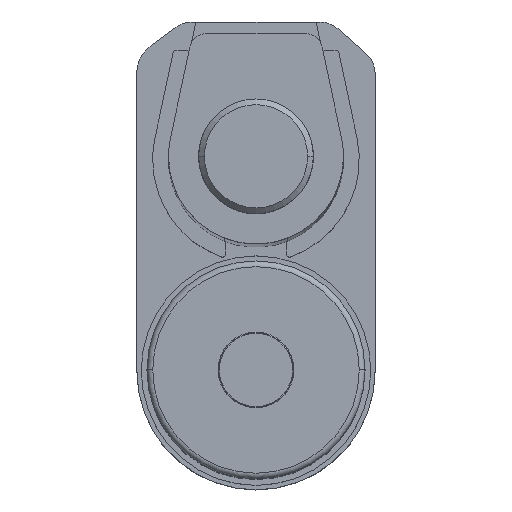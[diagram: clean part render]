
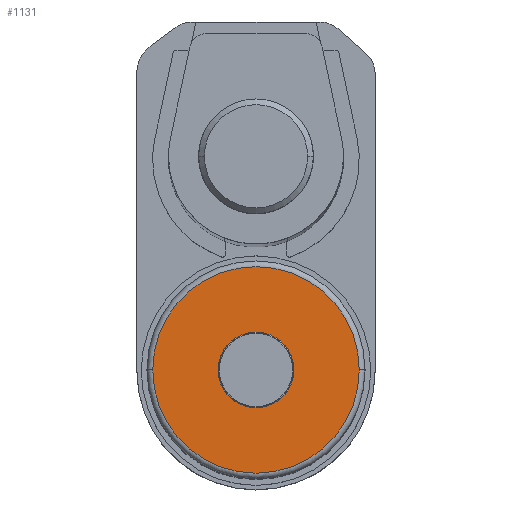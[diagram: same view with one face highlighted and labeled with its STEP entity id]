
A CAD part, top view. The second image highlights one B-rep face of the part: STEP entity #1131.
In plain terms, the highlighted planar face has unit normal (0, 0, 1).
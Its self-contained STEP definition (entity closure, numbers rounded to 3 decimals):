
#136 = AXIS2_PLACEMENT_3D ( 'NONE', #2526, #5495, #2941 ) ;
#475 = CIRCLE ( 'NONE', #4536, 6.6 ) ;
#617 = CARTESIAN_POINT ( 'NONE',  ( 18., -20.751, 93. ) ) ;
#637 = DIRECTION ( 'NONE',  ( 1., 0., 0. ) ) ;
#794 = AXIS2_PLACEMENT_3D ( 'NONE', #4481, #1934, #4913 ) ;
#884 = DIRECTION ( 'NONE',  ( 0., 0., -1. ) ) ;
#932 = ORIENTED_EDGE ( 'NONE', *, *, #1500, .T. ) ;
#1131 = ADVANCED_FACE ( 'NONE', ( #4951, #3818 ), #4018, .T. ) ;
#1500 = EDGE_CURVE ( 'NONE', #2454, #2925, #4478, .T. ) ;
#1502 = VERTEX_POINT ( 'NONE', #3779 ) ;
#1854 = CARTESIAN_POINT ( 'NONE',  ( 0., -20.751, 93. ) ) ;
#1934 = DIRECTION ( 'NONE',  ( 0., 0., -1. ) ) ;
#2240 = CIRCLE ( 'NONE', #794, 6.6 ) ;
#2296 = DIRECTION ( 'NONE',  ( 1., 0., 0. ) ) ;
#2454 = VERTEX_POINT ( 'NONE', #617 ) ;
#2526 = CARTESIAN_POINT ( 'NONE',  ( 0., -20.751, 93. ) ) ;
#2701 = AXIS2_PLACEMENT_3D ( 'NONE', #1854, #4838, #2296 ) ;
#2917 = AXIS2_PLACEMENT_3D ( 'NONE', #4887, #3178, #637 ) ;
#2925 = VERTEX_POINT ( 'NONE', #3387 ) ;
#2941 = DIRECTION ( 'NONE',  ( 1., 0., 0. ) ) ;
#3071 = ORIENTED_EDGE ( 'NONE', *, *, #5251, .T. ) ;
#3151 = CIRCLE ( 'NONE', #2701, 18. ) ;
#3178 = DIRECTION ( 'NONE',  ( 0., 0., 1. ) ) ;
#3387 = CARTESIAN_POINT ( 'NONE',  ( -18., -20.751, 93. ) ) ;
#3429 = CARTESIAN_POINT ( 'NONE',  ( 0., -20.751, 93. ) ) ;
#3447 = ORIENTED_EDGE ( 'NONE', *, *, #4230, .T. ) ;
#3461 = EDGE_LOOP ( 'NONE', ( #3447, #3471 ) ) ;
#3471 = ORIENTED_EDGE ( 'NONE', *, *, #4787, .T. ) ;
#3776 = EDGE_LOOP ( 'NONE', ( #932, #3071 ) ) ;
#3779 = CARTESIAN_POINT ( 'NONE',  ( -6.6, -20.751, 93. ) ) ;
#3818 = FACE_OUTER_BOUND ( 'NONE', #3776, .T. ) ;
#3852 = DIRECTION ( 'NONE',  ( 1., 0., 0. ) ) ;
#4018 = PLANE ( 'NONE',  #2917 ) ;
#4230 = EDGE_CURVE ( 'NONE', #4965, #1502, #475, .T. ) ;
#4478 = CIRCLE ( 'NONE', #136, 18. ) ;
#4481 = CARTESIAN_POINT ( 'NONE',  ( 0., -20.751, 93. ) ) ;
#4536 = AXIS2_PLACEMENT_3D ( 'NONE', #3429, #884, #3852 ) ;
#4787 = EDGE_CURVE ( 'NONE', #1502, #4965, #2240, .T. ) ;
#4838 = DIRECTION ( 'NONE',  ( 0., 0., 1. ) ) ;
#4887 = CARTESIAN_POINT ( 'NONE',  ( 0., -20.751, 93. ) ) ;
#4913 = DIRECTION ( 'NONE',  ( 1., 0., 0. ) ) ;
#4951 = FACE_BOUND ( 'NONE', #3461, .T. ) ;
#4965 = VERTEX_POINT ( 'NONE', #5475 ) ;
#5251 = EDGE_CURVE ( 'NONE', #2925, #2454, #3151, .T. ) ;
#5475 = CARTESIAN_POINT ( 'NONE',  ( 6.6, -20.751, 93. ) ) ;
#5495 = DIRECTION ( 'NONE',  ( 0., 0., 1. ) ) ;
